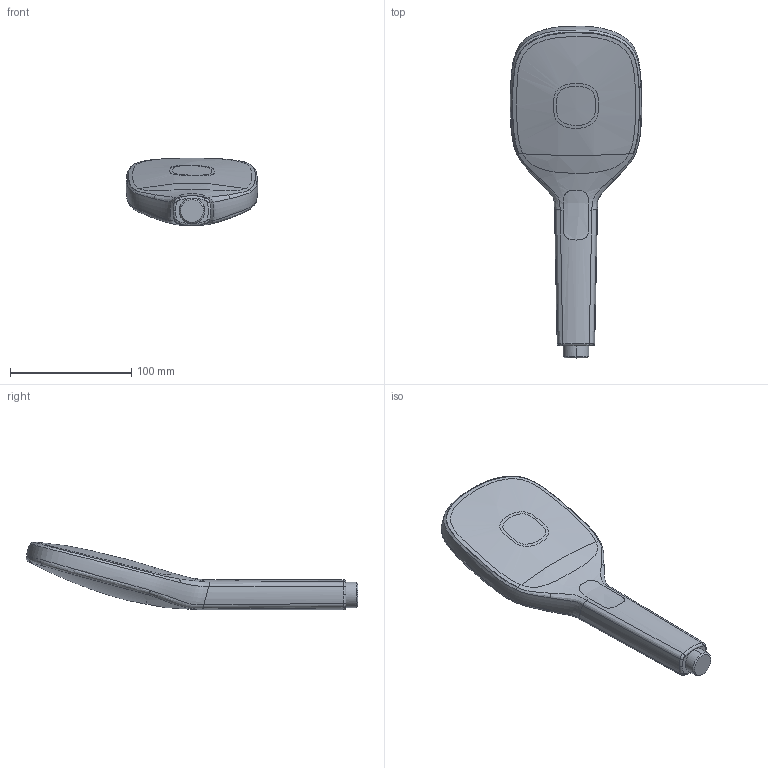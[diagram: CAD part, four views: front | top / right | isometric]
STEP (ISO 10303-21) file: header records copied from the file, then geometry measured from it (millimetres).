
FILE_DESCRIPTION (( 'STEP AP203' ), '1' );
FILE_NAME ('243403(2017)+84330200.STEP', '2017-11-10T14:08:44', ( '' ), ( '' ), 'SwSTEP 2.0', 'SolidWorks 2016', '' );
FILE_SCHEMA (( 'CONFIG_CONTROL_DESIGN' ));
Length unit declared in the file: millimetre
Products named in the file (1): 243403(2017)+84330200
Bounding box: 108.25 x 273.82 x 56.07 mm (x, y, z)
Volume: 420410.9 mm3; surface area: 46312.8 mm2
Topology: 1 solids, 1 shells, 45 faces, 115 edges, 75 vertices
Faces by surface type: bspline 37, cylinder 4, cone 2, plane 2
Entity records: 20206 total; most frequent: CARTESIAN_POINT 19361, ORIENTED_EDGE 230, EDGE_CURVE 115, B_SPLINE_CURVE_WITH_KNOTS 98, VERTEX_POINT 75, EDGE_LOOP 48, FACE_OUTER_BOUND 45, ADVANCED_FACE 45
